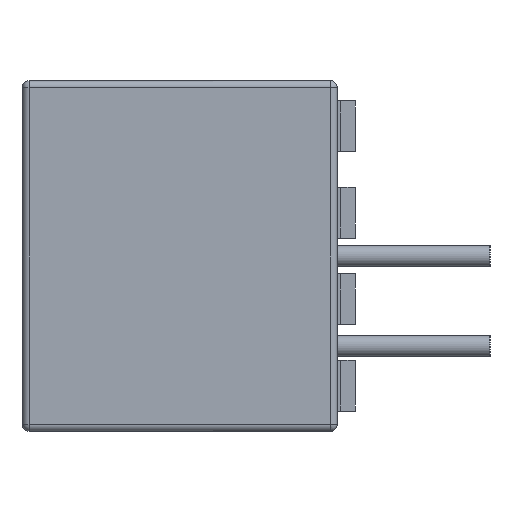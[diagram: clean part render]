
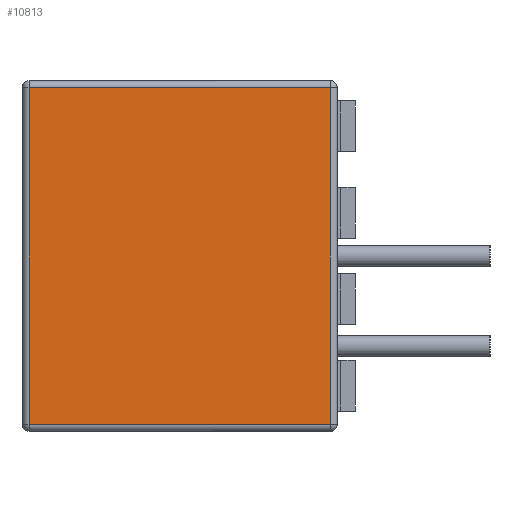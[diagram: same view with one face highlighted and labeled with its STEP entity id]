
A CAD part, left-side view. The second image highlights one B-rep face of the part: STEP entity #10813.
In plain terms, the highlighted planar face has unit normal (-1, 0, 0).
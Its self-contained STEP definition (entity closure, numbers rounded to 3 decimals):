
#10813 = ADVANCED_FACE ( 'NONE', ( #24770 ), #24769, .T. ) ;
#10814 = EDGE_LOOP ( 'NONE', ( #10815, #10924, #10928, #10931 ) ) ;
#10815 = ORIENTED_EDGE ( 'NONE', *, *, #10816, .T. ) ;
#10816 = EDGE_CURVE ( 'NONE', #10817, #10921, #24767, .T. ) ;
#10817 = VERTEX_POINT ( 'NONE', #24760 ) ;
#10921 = VERTEX_POINT ( 'NONE', #24917 ) ;
#10924 = ORIENTED_EDGE ( 'NONE', *, *, #10926, .T. ) ;
#10926 = EDGE_CURVE ( 'NONE', #10921, #10927, #24916, .T. ) ;
#10927 = VERTEX_POINT ( 'NONE', #24912 ) ;
#10928 = ORIENTED_EDGE ( 'NONE', *, *, #10929, .T. ) ;
#10929 = EDGE_CURVE ( 'NONE', #10927, #10930, #24911, .T. ) ;
#10930 = VERTEX_POINT ( 'NONE', #24907 ) ;
#10931 = ORIENTED_EDGE ( 'NONE', *, *, #10932, .T. ) ;
#10932 = EDGE_CURVE ( 'NONE', #10930, #10817, #24906, .T. ) ;
#24760 = CARTESIAN_POINT ( 'NONE',  ( -14.497, 8.69, 4.747 ) ) ;
#24761 = DIRECTION ( 'NONE',  ( 0., 0., -1. ) ) ;
#24762 = VECTOR ( 'NONE', #24761, 1000. ) ;
#24763 = CARTESIAN_POINT ( 'NONE',  ( -14.497, 8.69, -4.947 ) ) ;
#24764 = DIRECTION ( 'NONE',  ( 0., -1., 0. ) ) ;
#24765 = DIRECTION ( 'NONE',  ( -1., 0., 0. ) ) ;
#24766 = CARTESIAN_POINT ( 'NONE',  ( -14.5, 0., 4.95 ) ) ;
#24767 = LINE ( 'NONE', #24763, #24762 ) ;
#24768 = AXIS2_PLACEMENT_3D ( 'NONE', #24766, #24765, #24764 ) ;
#24769 = PLANE ( 'NONE',  #24768 ) ;
#24770 = FACE_OUTER_BOUND ( 'NONE', #10814, .T. ) ;
#24902 = DIRECTION ( 'NONE',  ( 0., 1., 0. ) ) ;
#24904 = VECTOR ( 'NONE', #24902, 1000. ) ;
#24905 = CARTESIAN_POINT ( 'NONE',  ( -14.5, 0., 4.75 ) ) ;
#24906 = LINE ( 'NONE', #24905, #24904 ) ;
#24907 = CARTESIAN_POINT ( 'NONE',  ( -14.5, 0.2, 4.75 ) ) ;
#24908 = DIRECTION ( 'NONE',  ( 0., 0., 1. ) ) ;
#24909 = VECTOR ( 'NONE', #24908, 1000. ) ;
#24910 = CARTESIAN_POINT ( 'NONE',  ( -14.5, 0.2, 4.95 ) ) ;
#24911 = LINE ( 'NONE', #24910, #24909 ) ;
#24912 = CARTESIAN_POINT ( 'NONE',  ( -14.5, 0.2, -4.75 ) ) ;
#24913 = DIRECTION ( 'NONE',  ( 0., -1., 0. ) ) ;
#24914 = VECTOR ( 'NONE', #24913, 1000. ) ;
#24915 = CARTESIAN_POINT ( 'NONE',  ( -14.5, 0.004, -4.75 ) ) ;
#24916 = LINE ( 'NONE', #24915, #24914 ) ;
#24917 = CARTESIAN_POINT ( 'NONE',  ( -14.497, 8.69, -4.747 ) ) ;
